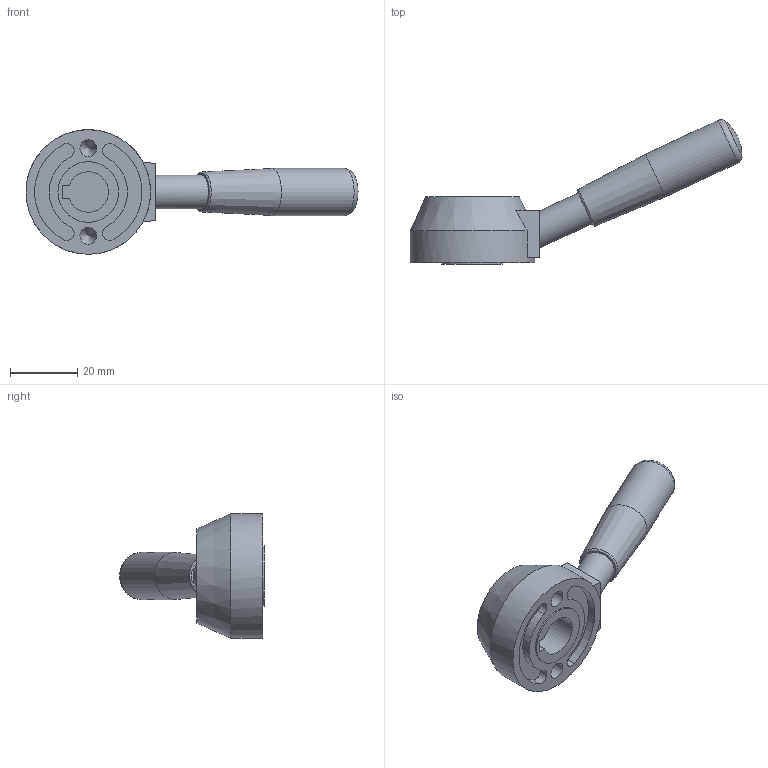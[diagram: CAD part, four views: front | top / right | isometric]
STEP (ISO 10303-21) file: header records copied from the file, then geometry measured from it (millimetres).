
FILE_DESCRIPTION( ( 'STEP AP203' ), '1' );
FILE_NAME( 'C:/Temp/Ganter_Step_05_03_2020/data/2_1/gn_512/gn_512_k/Control lever GN 512-37-K12.stp', '2020-03-05T11:51:39', ( 'License CC BY-ND 4.0' ), ( 'CADENAS' ), ' ', 'PARTsolutions', ' ' );
FILE_SCHEMA( ( 'CONFIG_CONTROL_DESIGN' ) );
Length unit declared in the file: millimetre
Products named in the file (1): _Control lever GN 512-37-K12
Bounding box: 98.59 x 42.95 x 37 mm (x, y, z)
Volume: 24068.4 mm3; surface area: 8327.2 mm2
Topology: 1 solids, 1 shells, 39 faces, 88 edges, 57 vertices
Faces by surface type: plane 16, cylinder 16, cone 4, torus 2, sphere 1
Full cylindrical faces by diameter (mm): 5 x2, 10 x1, 14 x1, 18 x1, 21 x1, 37 x1
Entity records: 1034 total; most frequent: DIRECTION 184, CARTESIAN_POINT 168, ORIENTED_EDGE 136, AXIS2_PLACEMENT_3D 78, EDGE_CURVE 68, EDGE_LOOP 59, VERTEX_POINT 54, FACE_OUTER_BOUND 48
